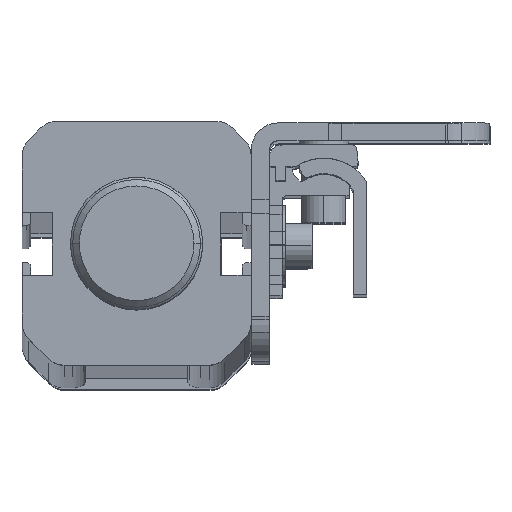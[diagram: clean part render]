
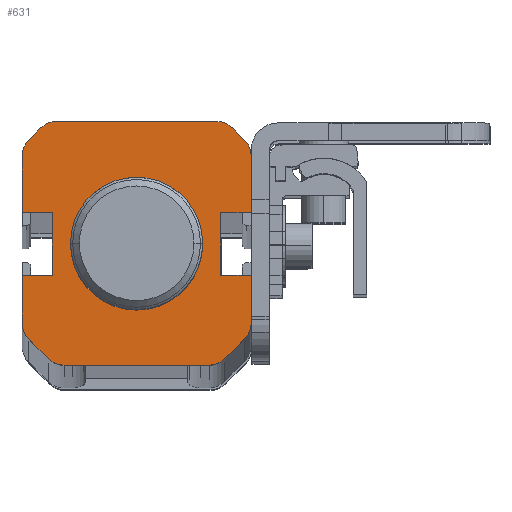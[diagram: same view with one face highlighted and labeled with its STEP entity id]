
A CAD part, top view. The second image highlights one B-rep face of the part: STEP entity #631.
In plain terms, the highlighted planar face has unit normal (0, 0, 1).
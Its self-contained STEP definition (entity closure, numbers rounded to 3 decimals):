
#225=CARTESIAN_POINT('',(-15.,0.15,-14.));
#226=VERTEX_POINT('',#225);
#235=CARTESIAN_POINT('',(15.,0.15,-14.));
#236=VERTEX_POINT('',#235);
#237=CARTESIAN_POINT('',(0.,0.15,-14.));
#238=DIRECTION('',(0.0,0.0,-1.0));
#239=DIRECTION('',(-1.0,0.0,0.0));
#240=AXIS2_PLACEMENT_3D('',#237,#238,#239);
#241=CIRCLE('',#240,15.0);
#242=EDGE_CURVE('',#236,#226,#241,.T.);
#276=CARTESIAN_POINT('',(0.,0.15,-14.));
#277=DIRECTION('',(0.0,0.0,-1.0));
#278=DIRECTION('',(-1.0,0.0,0.0));
#279=AXIS2_PLACEMENT_3D('',#276,#277,#278);
#280=CIRCLE('',#279,15.0);
#281=EDGE_CURVE('',#226,#236,#280,.T.);
#369=CARTESIAN_POINT('',(16.469,27.65,-14.));
#370=VERTEX_POINT('',#369);
#371=CARTESIAN_POINT('',(20.005,26.186,-14.));
#372=VERTEX_POINT('',#371);
#373=CARTESIAN_POINT('',(16.469,22.65,-14.));
#374=DIRECTION('',(0.0,0.0,-1.0));
#375=DIRECTION('',(0.383,0.924,0.0));
#376=AXIS2_PLACEMENT_3D('',#373,#374,#375);
#377=CIRCLE('',#376,5.0);
#378=EDGE_CURVE('',#370,#372,#377,.T.);
#412=CARTESIAN_POINT('',(24.536,21.655,-14.));
#413=VERTEX_POINT('',#412);
#414=CARTESIAN_POINT('',(20.005,26.186,-14.));
#415=DIRECTION('',(0.707,-0.707,0.0));
#416=VECTOR('',#415,6.407);
#417=LINE('',#414,#416);
#418=EDGE_CURVE('',#372,#413,#417,.T.);
#437=CARTESIAN_POINT('',(-18.54,27.65,-14.));
#438=DIRECTION('',(0.0,0.0,1.0));
#439=DIRECTION('',(1.0,0.0,0.0));
#440=AXIS2_PLACEMENT_3D('',#437,#438,#439);
#441=PLANE('',#440);
#442=ORIENTED_EDGE('',*,*,#378,.F.);
#443=CARTESIAN_POINT('',(-16.469,27.65,-14.));
#444=VERTEX_POINT('',#443);
#445=CARTESIAN_POINT('',(-16.469,27.65,-14.));
#446=DIRECTION('',(1.0,0.0,0.0));
#447=VECTOR('',#446,32.939);
#448=LINE('',#445,#447);
#449=EDGE_CURVE('',#444,#370,#448,.T.);
#450=ORIENTED_EDGE('',*,*,#449,.F.);
#451=CARTESIAN_POINT('',(-20.005,26.186,-14.));
#452=VERTEX_POINT('',#451);
#453=CARTESIAN_POINT('',(-16.469,22.65,-14.));
#454=DIRECTION('',(0.0,0.0,-1.0));
#455=DIRECTION('',(-0.383,0.924,0.0));
#456=AXIS2_PLACEMENT_3D('',#453,#454,#455);
#457=CIRCLE('',#456,5.0);
#458=EDGE_CURVE('',#452,#444,#457,.T.);
#459=ORIENTED_EDGE('',*,*,#458,.F.);
#460=CARTESIAN_POINT('',(-24.536,21.655,-14.));
#461=VERTEX_POINT('',#460);
#462=CARTESIAN_POINT('',(-24.536,21.655,-14.));
#463=DIRECTION('',(0.707,0.707,0.0));
#464=VECTOR('',#463,6.407);
#465=LINE('',#462,#464);
#466=EDGE_CURVE('',#461,#452,#465,.T.);
#467=ORIENTED_EDGE('',*,*,#466,.F.);
#468=CARTESIAN_POINT('',(-26.,18.119,-14.));
#469=VERTEX_POINT('',#468);
#470=CARTESIAN_POINT('',(-21.,18.119,-14.));
#471=DIRECTION('',(0.0,0.0,-1.));
#472=DIRECTION('',(-0.924,0.383,0.0));
#473=AXIS2_PLACEMENT_3D('',#470,#471,#472);
#474=CIRCLE('',#473,5.0);
#475=EDGE_CURVE('',#469,#461,#474,.T.);
#476=ORIENTED_EDGE('',*,*,#475,.F.);
#477=CARTESIAN_POINT('',(-26.,7.251,-14.));
#478=VERTEX_POINT('',#477);
#479=CARTESIAN_POINT('',(-26.,7.251,-14.));
#480=DIRECTION('',(0.0,1.0,0.0));
#481=VECTOR('',#480,10.868);
#482=LINE('',#479,#481);
#483=EDGE_CURVE('',#478,#469,#482,.T.);
#484=ORIENTED_EDGE('',*,*,#483,.F.);
#485=CARTESIAN_POINT('',(-19.1,7.251,-14.));
#486=VERTEX_POINT('',#485);
#487=CARTESIAN_POINT('',(-19.1,7.251,-14.));
#488=DIRECTION('',(-1.0,0.0,0.0));
#489=VECTOR('',#488,6.9);
#490=LINE('',#487,#489);
#491=EDGE_CURVE('',#486,#478,#490,.T.);
#492=ORIENTED_EDGE('',*,*,#491,.F.);
#493=CARTESIAN_POINT('',(-19.1,-6.949,-14.));
#494=VERTEX_POINT('',#493);
#495=CARTESIAN_POINT('',(-19.1,-6.949,-14.));
#496=DIRECTION('',(0.0,1.0,0.0));
#497=VECTOR('',#496,14.2);
#498=LINE('',#495,#497);
#499=EDGE_CURVE('',#494,#486,#498,.T.);
#500=ORIENTED_EDGE('',*,*,#499,.F.);
#501=CARTESIAN_POINT('',(-26.,-6.949,-14.));
#502=VERTEX_POINT('',#501);
#503=CARTESIAN_POINT('',(-26.,-6.949,-14.));
#504=DIRECTION('',(1.0,0.0,0.0));
#505=VECTOR('',#504,6.9);
#506=LINE('',#503,#505);
#507=EDGE_CURVE('',#502,#494,#506,.T.);
#508=ORIENTED_EDGE('',*,*,#507,.F.);
#509=CARTESIAN_POINT('',(-26.,-19.863,-14.));
#510=VERTEX_POINT('',#509);
#511=CARTESIAN_POINT('',(-26.,-19.863,-14.));
#512=DIRECTION('',(0.0,1.0,0.0));
#513=VECTOR('',#512,12.914);
#514=LINE('',#511,#513);
#515=EDGE_CURVE('',#510,#502,#514,.T.);
#516=ORIENTED_EDGE('',*,*,#515,.F.);
#517=CARTESIAN_POINT('',(-24.536,-23.399,-14.));
#518=VERTEX_POINT('',#517);
#519=CARTESIAN_POINT('',(-21.,-19.863,-14.));
#520=DIRECTION('',(0.0,0.0,-1.));
#521=DIRECTION('',(-0.924,-0.383,0.0));
#522=AXIS2_PLACEMENT_3D('',#519,#520,#521);
#523=CIRCLE('',#522,5.0);
#524=EDGE_CURVE('',#518,#510,#523,.T.);
#525=ORIENTED_EDGE('',*,*,#524,.F.);
#526=CARTESIAN_POINT('',(-21.749,-26.186,-14.));
#527=VERTEX_POINT('',#526);
#528=CARTESIAN_POINT('',(-21.749,-26.186,-14.));
#529=DIRECTION('',(-0.707,0.707,0.0));
#530=VECTOR('',#529,3.941);
#531=LINE('',#528,#530);
#532=EDGE_CURVE('',#527,#518,#531,.T.);
#533=ORIENTED_EDGE('',*,*,#532,.F.);
#534=CARTESIAN_POINT('',(-18.213,-27.65,-14.));
#535=VERTEX_POINT('',#534);
#536=CARTESIAN_POINT('',(-18.213,-22.65,-14.));
#537=DIRECTION('',(0.0,0.0,-1.));
#538=DIRECTION('',(-0.383,-0.924,0.0));
#539=AXIS2_PLACEMENT_3D('',#536,#537,#538);
#540=CIRCLE('',#539,5.);
#541=EDGE_CURVE('',#535,#527,#540,.T.);
#542=ORIENTED_EDGE('',*,*,#541,.F.);
#543=CARTESIAN_POINT('',(18.213,-27.65,-14.));
#544=VERTEX_POINT('',#543);
#545=CARTESIAN_POINT('',(18.213,-27.65,-14.));
#546=DIRECTION('',(-1.0,0.0,0.0));
#547=VECTOR('',#546,36.426);
#548=LINE('',#545,#547);
#549=EDGE_CURVE('',#544,#535,#548,.T.);
#550=ORIENTED_EDGE('',*,*,#549,.F.);
#551=CARTESIAN_POINT('',(21.749,-26.186,-14.));
#552=VERTEX_POINT('',#551);
#553=CARTESIAN_POINT('',(18.213,-22.65,-14.));
#554=DIRECTION('',(0.0,0.0,-1.0));
#555=DIRECTION('',(0.383,-0.924,0.0));
#556=AXIS2_PLACEMENT_3D('',#553,#554,#555);
#557=CIRCLE('',#556,5.0);
#558=EDGE_CURVE('',#552,#544,#557,.T.);
#559=ORIENTED_EDGE('',*,*,#558,.F.);
#560=CARTESIAN_POINT('',(24.536,-23.399,-14.));
#561=VERTEX_POINT('',#560);
#562=CARTESIAN_POINT('',(24.536,-23.399,-14.));
#563=DIRECTION('',(-0.707,-0.707,0.0));
#564=VECTOR('',#563,3.941);
#565=LINE('',#562,#564);
#566=EDGE_CURVE('',#561,#552,#565,.T.);
#567=ORIENTED_EDGE('',*,*,#566,.F.);
#568=CARTESIAN_POINT('',(26.,-19.863,-14.));
#569=VERTEX_POINT('',#568);
#570=CARTESIAN_POINT('',(21.,-19.863,-14.));
#571=DIRECTION('',(0.0,0.0,-1.));
#572=DIRECTION('',(0.924,-0.383,0.0));
#573=AXIS2_PLACEMENT_3D('',#570,#571,#572);
#574=CIRCLE('',#573,5.0);
#575=EDGE_CURVE('',#569,#561,#574,.T.);
#576=ORIENTED_EDGE('',*,*,#575,.F.);
#577=CARTESIAN_POINT('',(26.,-6.949,-14.));
#578=VERTEX_POINT('',#577);
#579=CARTESIAN_POINT('',(26.,-6.949,-14.));
#580=DIRECTION('',(0.0,-1.0,0.0));
#581=VECTOR('',#580,12.914);
#582=LINE('',#579,#581);
#583=EDGE_CURVE('',#578,#569,#582,.T.);
#584=ORIENTED_EDGE('',*,*,#583,.F.);
#585=CARTESIAN_POINT('',(19.1,-6.949,-14.));
#586=VERTEX_POINT('',#585);
#587=CARTESIAN_POINT('',(19.1,-6.949,-14.));
#588=DIRECTION('',(1.0,0.0,0.0));
#589=VECTOR('',#588,6.9);
#590=LINE('',#587,#589);
#591=EDGE_CURVE('',#586,#578,#590,.T.);
#592=ORIENTED_EDGE('',*,*,#591,.F.);
#593=CARTESIAN_POINT('',(19.1,7.251,-14.));
#594=VERTEX_POINT('',#593);
#595=CARTESIAN_POINT('',(19.1,7.251,-14.));
#596=DIRECTION('',(0.0,-1.0,0.0));
#597=VECTOR('',#596,14.2);
#598=LINE('',#595,#597);
#599=EDGE_CURVE('',#594,#586,#598,.T.);
#600=ORIENTED_EDGE('',*,*,#599,.F.);
#601=CARTESIAN_POINT('',(26.,7.251,-14.));
#602=VERTEX_POINT('',#601);
#603=CARTESIAN_POINT('',(26.,7.251,-14.));
#604=DIRECTION('',(-1.0,0.0,0.0));
#605=VECTOR('',#604,6.9);
#606=LINE('',#603,#605);
#607=EDGE_CURVE('',#602,#594,#606,.T.);
#608=ORIENTED_EDGE('',*,*,#607,.F.);
#609=CARTESIAN_POINT('',(26.,18.119,-14.));
#610=VERTEX_POINT('',#609);
#611=CARTESIAN_POINT('',(26.,18.119,-14.));
#612=DIRECTION('',(0.0,-1.0,0.0));
#613=VECTOR('',#612,10.868);
#614=LINE('',#611,#613);
#615=EDGE_CURVE('',#610,#602,#614,.T.);
#616=ORIENTED_EDGE('',*,*,#615,.F.);
#617=CARTESIAN_POINT('',(21.,18.119,-14.));
#618=DIRECTION('',(0.0,0.0,-1.));
#619=DIRECTION('',(0.924,0.383,0.0));
#620=AXIS2_PLACEMENT_3D('',#617,#618,#619);
#621=CIRCLE('',#620,5.0);
#622=EDGE_CURVE('',#413,#610,#621,.T.);
#623=ORIENTED_EDGE('',*,*,#622,.F.);
#624=ORIENTED_EDGE('',*,*,#418,.F.);
#625=EDGE_LOOP('',(#442,#450,#459,#467,#476,#484,#492,#500,#508,#516,#525,#533,#542,#550,#559,#567,#576,#584,#592,#600,#608,#616,#623,#624));
#626=FACE_OUTER_BOUND('',#625,.T.);
#627=ORIENTED_EDGE('',*,*,#281,.T.);
#628=ORIENTED_EDGE('',*,*,#242,.T.);
#629=EDGE_LOOP('',(#627,#628));
#630=FACE_BOUND('',#629,.T.);
#631=ADVANCED_FACE('',(#626,#630),#441,.T.);
